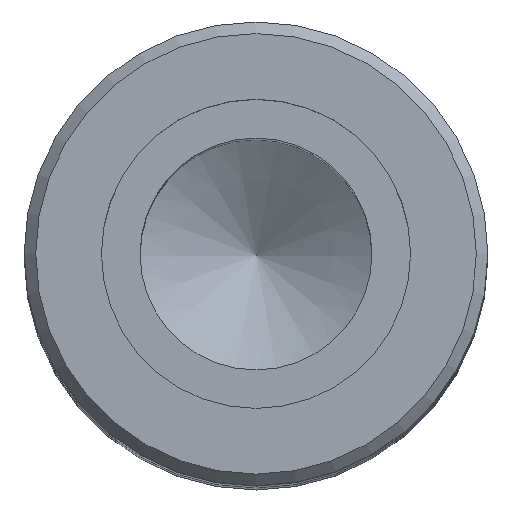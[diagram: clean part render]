
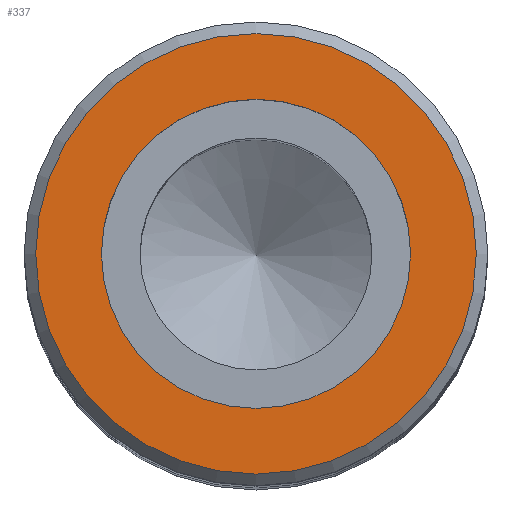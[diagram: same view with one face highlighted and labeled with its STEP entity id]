
A CAD part, top view. The second image highlights one B-rep face of the part: STEP entity #337.
In plain terms, the highlighted planar face has unit normal (0, 0, 1).
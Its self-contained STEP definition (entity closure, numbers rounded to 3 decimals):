
#69=FACE_BOUND('',#125,.T.);
#90=FACE_OUTER_BOUND('',#124,.T.);
#124=EDGE_LOOP('',(#291));
#125=EDGE_LOOP('',(#292));
#147=CIRCLE('',#394,4.);
#153=CIRCLE('',#405,5.7);
#173=VERTEX_POINT('',#589);
#179=VERTEX_POINT('',#609);
#208=EDGE_CURVE('',#173,#173,#147,.T.);
#217=EDGE_CURVE('',#179,#179,#153,.T.);
#291=ORIENTED_EDGE('',*,*,#217,.F.);
#292=ORIENTED_EDGE('',*,*,#208,.T.);
#316=PLANE('',#406);
#337=ADVANCED_FACE('',(#90,#69),#316,.T.);
#394=AXIS2_PLACEMENT_3D('',#590,#486,#487);
#405=AXIS2_PLACEMENT_3D('',#610,#511,#512);
#406=AXIS2_PLACEMENT_3D('',#612,#514,#515);
#486=DIRECTION('center_axis',(0.,0.,-1.));
#487=DIRECTION('ref_axis',(1.,0.,0.));
#511=DIRECTION('center_axis',(0.,0.,-1.));
#512=DIRECTION('ref_axis',(-1.,0.,0.));
#514=DIRECTION('center_axis',(0.,0.,1.));
#515=DIRECTION('ref_axis',(1.,0.,0.));
#589=CARTESIAN_POINT('',(-4.,0.,0.));
#590=CARTESIAN_POINT('Origin',(0.,0.,0.));
#609=CARTESIAN_POINT('',(5.7,0.,0.));
#610=CARTESIAN_POINT('Origin',(0.,0.,0.));
#612=CARTESIAN_POINT('Origin',(0.,0.,0.));
